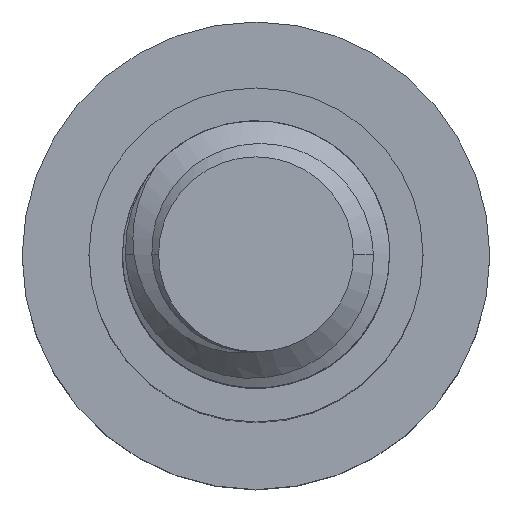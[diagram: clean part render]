
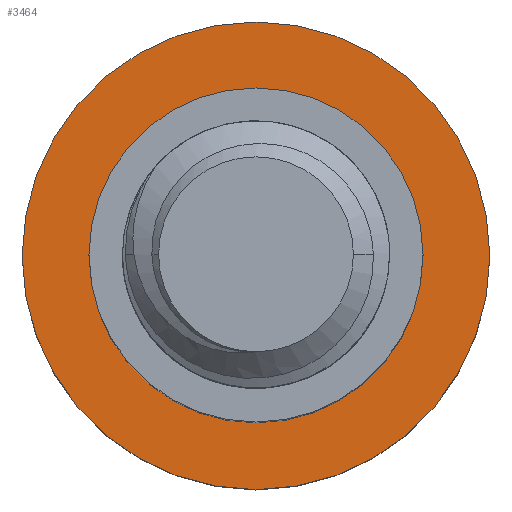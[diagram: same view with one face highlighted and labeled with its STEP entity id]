
A CAD part, top view. The second image highlights one B-rep face of the part: STEP entity #3464.
In plain terms, the highlighted planar face has unit normal (0, 0, 1).
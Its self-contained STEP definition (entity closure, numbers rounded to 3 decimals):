
#95 = AXIS2_PLACEMENT_3D ( 'NONE', #991, #373, #1679 ) ;
#249 = DIRECTION ( 'NONE',  ( 0., 0., -1. ) ) ;
#282 = ORIENTED_EDGE ( 'NONE', *, *, #1132, .T. ) ;
#328 = DIRECTION ( 'NONE',  ( -1., 0., 0. ) ) ;
#373 = DIRECTION ( 'NONE',  ( 0., 0., -1. ) ) ;
#401 = VERTEX_POINT ( 'NONE', #3942 ) ;
#511 = CIRCLE ( 'NONE', #2571, 5. ) ;
#528 = FACE_BOUND ( 'NONE', #1657, .T. ) ;
#561 = CIRCLE ( 'NONE', #95, 5. ) ;
#565 = VERTEX_POINT ( 'NONE', #3661 ) ;
#836 = DIRECTION ( 'NONE',  ( -1., 0., 0. ) ) ;
#991 = CARTESIAN_POINT ( 'NONE',  ( 0., 0., -14. ) ) ;
#1115 = AXIS2_PLACEMENT_3D ( 'NONE', #1656, #2926, #2969 ) ;
#1132 = EDGE_CURVE ( 'NONE', #565, #401, #511, .T. ) ;
#1246 = AXIS2_PLACEMENT_3D ( 'NONE', #2226, #249, #2182 ) ;
#1341 = CARTESIAN_POINT ( 'NONE',  ( 0., 0., -14. ) ) ;
#1397 = CARTESIAN_POINT ( 'NONE',  ( 0., 0., -14. ) ) ;
#1454 = AXIS2_PLACEMENT_3D ( 'NONE', #1341, #2907, #328 ) ;
#1460 = DIRECTION ( 'NONE',  ( 0., 0., -1. ) ) ;
#1511 = PLANE ( 'NONE',  #1246 ) ;
#1570 = VERTEX_POINT ( 'NONE', #3637 ) ;
#1656 = CARTESIAN_POINT ( 'NONE',  ( 0., 0., -14. ) ) ;
#1657 = EDGE_LOOP ( 'NONE', ( #282, #2982 ) ) ;
#1679 = DIRECTION ( 'NONE',  ( -1., 0., 0. ) ) ;
#1707 = CARTESIAN_POINT ( 'NONE',  ( -7., 0., -14. ) ) ;
#1732 = CIRCLE ( 'NONE', #1454, 7. ) ;
#2182 = DIRECTION ( 'NONE',  ( -1., 0., 0. ) ) ;
#2226 = CARTESIAN_POINT ( 'NONE',  ( 0., 0., -14. ) ) ;
#2571 = AXIS2_PLACEMENT_3D ( 'NONE', #1397, #1460, #836 ) ;
#2607 = EDGE_CURVE ( 'NONE', #2710, #1570, #1732, .T. ) ;
#2710 = VERTEX_POINT ( 'NONE', #1707 ) ;
#2789 = EDGE_CURVE ( 'NONE', #401, #565, #561, .T. ) ;
#2790 = FACE_OUTER_BOUND ( 'NONE', #3647, .T. ) ;
#2826 = CIRCLE ( 'NONE', #1115, 7. ) ;
#2907 = DIRECTION ( 'NONE',  ( 0., 0., -1. ) ) ;
#2926 = DIRECTION ( 'NONE',  ( 0., 0., -1. ) ) ;
#2969 = DIRECTION ( 'NONE',  ( -1., 0., 0. ) ) ;
#2970 = EDGE_CURVE ( 'NONE', #1570, #2710, #2826, .T. ) ;
#2982 = ORIENTED_EDGE ( 'NONE', *, *, #2789, .T. ) ;
#3207 = ORIENTED_EDGE ( 'NONE', *, *, #2607, .F. ) ;
#3464 = ADVANCED_FACE ( 'NONE', ( #528, #2790 ), #1511, .F. ) ;
#3637 = CARTESIAN_POINT ( 'NONE',  ( 7., 0., -14. ) ) ;
#3647 = EDGE_LOOP ( 'NONE', ( #3694, #3207 ) ) ;
#3661 = CARTESIAN_POINT ( 'NONE',  ( -5., 0., -14. ) ) ;
#3694 = ORIENTED_EDGE ( 'NONE', *, *, #2970, .F. ) ;
#3942 = CARTESIAN_POINT ( 'NONE',  ( 5., 0., -14. ) ) ;
